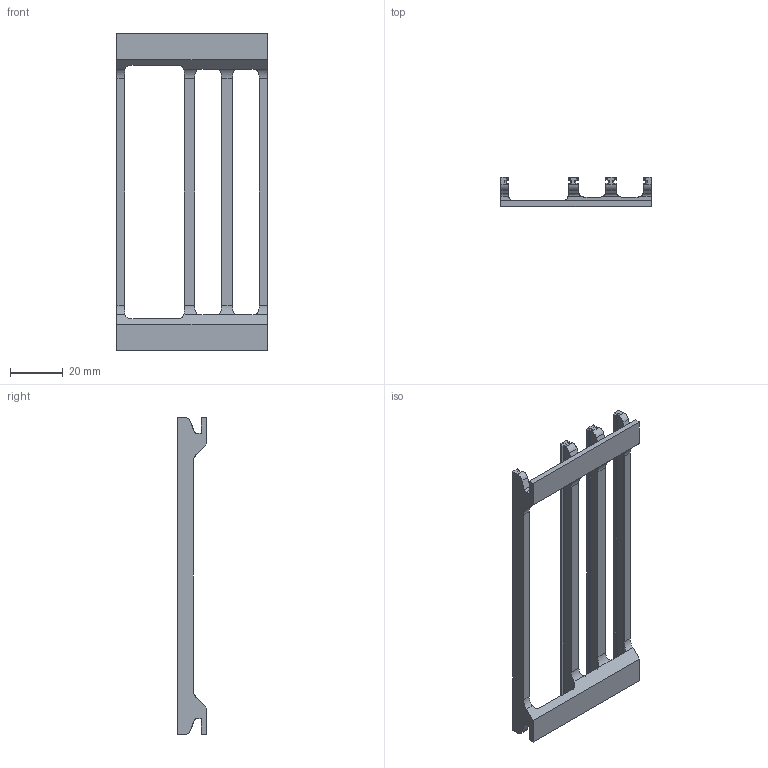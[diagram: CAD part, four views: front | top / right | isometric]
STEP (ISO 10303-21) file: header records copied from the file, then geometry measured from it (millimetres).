
FILE_DESCRIPTION(/* description */ (''),/* implementation_level */ '2;1');
FILE_NAME(/* name */ 'C:/Users/Ben/Downloads/3d-prints/printing/missing/FeederTrays/ClipPCBTrays v11.step',/* time_stamp */ '2022-03-13T14:07:26-04:00',/* author */ (''),/* organization */ (''),/* preprocessor_version */ 'ST-DEVELOPER v18.1',/* originating_system */ 'Autodesk Translation Framework v10.10.0.1391',/* authorisation */ '');
FILE_SCHEMA (('AUTOMOTIVE_DESIGN { 1 0 10303 214 3 1 1 }'));
Length unit declared in the file: millimetre
Products named in the file (1): ClipPCBTrays
Bounding box: 57 x 11 x 120 mm (x, y, z)
Volume: 12821.6 mm3; surface area: 13817 mm2
Topology: 1 solids, 1 shells, 170 faces, 474 edges, 300 vertices
Faces by surface type: plane 138, cylinder 32
Entity records: 5543 total; most frequent: CARTESIAN_POINT 1153, ORIENTED_EDGE 948, DIRECTION 856, EDGE_CURVE 474, LINE 386, VECTOR 386, VERTEX_POINT 300, AXIS2_PLACEMENT_3D 235
